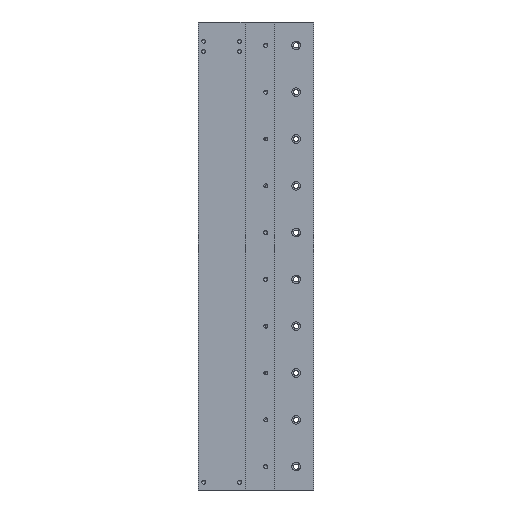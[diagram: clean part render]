
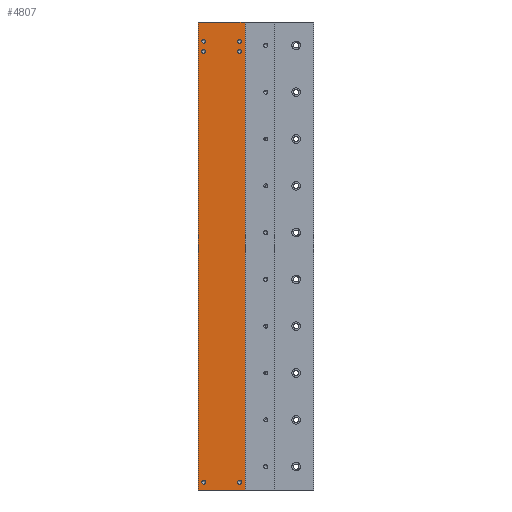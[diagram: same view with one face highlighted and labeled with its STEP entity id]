
A CAD part, left-side view. The second image highlights one B-rep face of the part: STEP entity #4807.
In plain terms, the highlighted planar face has unit normal (-1, 0, 0).
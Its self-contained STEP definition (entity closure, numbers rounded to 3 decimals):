
#13 = CARTESIAN_POINT ( 'NONE',  ( 9.5, 141., 10. ) ) ;
#66 = DIRECTION ( 'NONE',  ( -1., 0., 0. ) ) ;
#72 = VERTEX_POINT ( 'NONE', #3648 ) ;
#80 = DIRECTION ( 'NONE',  ( 0., 0., 1. ) ) ;
#115 = CIRCLE ( 'NONE', #1271, 2.5 ) ;
#143 = EDGE_CURVE ( 'NONE', #4715, #3780, #115, .T. ) ;
#290 = DIRECTION ( 'NONE',  ( 0., 0., 1. ) ) ;
#301 = AXIS2_PLACEMENT_3D ( 'NONE', #1803, #2534, #3327 ) ;
#342 = VERTEX_POINT ( 'NONE', #4205 ) ;
#372 = EDGE_CURVE ( 'NONE', #1276, #1263, #441, .T. ) ;
#383 = VERTEX_POINT ( 'NONE', #3096 ) ;
#385 = CARTESIAN_POINT ( 'NONE',  ( 9.5, 141., 564.8 ) ) ;
#393 = DIRECTION ( 'NONE',  ( -1., 0., 0. ) ) ;
#424 = CARTESIAN_POINT ( 'NONE',  ( 9.5, 95., 10. ) ) ;
#441 = CIRCLE ( 'NONE', #4936, 2.5 ) ;
#461 = AXIS2_PLACEMENT_3D ( 'NONE', #3302, #992, #3286 ) ;
#488 = ORIENTED_EDGE ( 'NONE', *, *, #4562, .F. ) ;
#518 = LINE ( 'NONE', #4298, #1519 ) ;
#523 = CIRCLE ( 'NONE', #461, 2.5 ) ;
#528 = AXIS2_PLACEMENT_3D ( 'NONE', #2368, #4305, #2007 ) ;
#606 = EDGE_LOOP ( 'NONE', ( #2063, #2773 ) ) ;
#607 = LINE ( 'NONE', #2138, #3226 ) ;
#621 = CARTESIAN_POINT ( 'NONE',  ( 9.5, 95., 562.3 ) ) ;
#623 = EDGE_CURVE ( 'NONE', #4763, #4364, #768, .T. ) ;
#649 = EDGE_LOOP ( 'NONE', ( #4609, #1215, #930, #2100 ) ) ;
#686 = CARTESIAN_POINT ( 'NONE',  ( 9.5, 95., 12.5 ) ) ;
#735 = EDGE_LOOP ( 'NONE', ( #4446, #4394 ) ) ;
#757 = DIRECTION ( 'NONE',  ( 0., 1., 0. ) ) ;
#768 = CIRCLE ( 'NONE', #4910, 2.5 ) ;
#773 = EDGE_LOOP ( 'NONE', ( #1893, #1425 ) ) ;
#835 = ORIENTED_EDGE ( 'NONE', *, *, #2545, .F. ) ;
#916 = EDGE_CURVE ( 'NONE', #383, #4086, #2107, .T. ) ;
#930 = ORIENTED_EDGE ( 'NONE', *, *, #916, .T. ) ;
#941 = CARTESIAN_POINT ( 'NONE',  ( 9.5, 95., 562.3 ) ) ;
#957 = CARTESIAN_POINT ( 'NONE',  ( 9.5, 141., 559.8 ) ) ;
#992 = DIRECTION ( 'NONE',  ( -1., 0., 0. ) ) ;
#1083 = CARTESIAN_POINT ( 'NONE',  ( 9.5, 141., 562.3 ) ) ;
#1115 = DIRECTION ( 'NONE',  ( 0., 0., 1. ) ) ;
#1148 = AXIS2_PLACEMENT_3D ( 'NONE', #2001, #3940, #4704 ) ;
#1156 = DIRECTION ( 'NONE',  ( 0., 1., 0. ) ) ;
#1215 = ORIENTED_EDGE ( 'NONE', *, *, #3727, .F. ) ;
#1256 = CARTESIAN_POINT ( 'NONE',  ( 9.5, 95., 564.8 ) ) ;
#1263 = VERTEX_POINT ( 'NONE', #686 ) ;
#1268 = DIRECTION ( 'NONE',  ( 0., 0., -1. ) ) ;
#1271 = AXIS2_PLACEMENT_3D ( 'NONE', #1083, #1880, #4927 ) ;
#1276 = VERTEX_POINT ( 'NONE', #2171 ) ;
#1359 = VERTEX_POINT ( 'NONE', #3755 ) ;
#1383 = FACE_BOUND ( 'NONE', #2739, .T. ) ;
#1396 = CARTESIAN_POINT ( 'NONE',  ( 9.5, 88., 0. ) ) ;
#1425 = ORIENTED_EDGE ( 'NONE', *, *, #372, .F. ) ;
#1452 = CARTESIAN_POINT ( 'NONE',  ( 9.5, 148., 600. ) ) ;
#1465 = AXIS2_PLACEMENT_3D ( 'NONE', #3603, #3230, #2090 ) ;
#1519 = VECTOR ( 'NONE', #1268, 1000. ) ;
#1537 = EDGE_CURVE ( 'NONE', #4290, #3934, #607, .T. ) ;
#1576 = CARTESIAN_POINT ( 'NONE',  ( 9.5, 95., 10. ) ) ;
#1595 = EDGE_CURVE ( 'NONE', #72, #342, #2633, .T. ) ;
#1686 = FACE_OUTER_BOUND ( 'NONE', #649, .T. ) ;
#1690 = LINE ( 'NONE', #1452, #3052 ) ;
#1782 = EDGE_CURVE ( 'NONE', #1359, #2858, #4358, .T. ) ;
#1803 = CARTESIAN_POINT ( 'NONE',  ( 9.5, 95., 575.3 ) ) ;
#1880 = DIRECTION ( 'NONE',  ( -1., 0., 0. ) ) ;
#1893 = ORIENTED_EDGE ( 'NONE', *, *, #3447, .F. ) ;
#1909 = EDGE_CURVE ( 'NONE', #4364, #4763, #3039, .T. ) ;
#1976 = DIRECTION ( 'NONE',  ( -1., 0., 0. ) ) ;
#2000 = CIRCLE ( 'NONE', #4899, 2.5 ) ;
#2001 = CARTESIAN_POINT ( 'NONE',  ( 9.5, 95., 575.3 ) ) ;
#2007 = DIRECTION ( 'NONE',  ( 0., -1., 0. ) ) ;
#2063 = ORIENTED_EDGE ( 'NONE', *, *, #143, .F. ) ;
#2090 = DIRECTION ( 'NONE',  ( 0., 0., 1. ) ) ;
#2100 = ORIENTED_EDGE ( 'NONE', *, *, #4672, .T. ) ;
#2107 = LINE ( 'NONE', #2740, #2765 ) ;
#2138 = CARTESIAN_POINT ( 'NONE',  ( 9.5, 0., 0. ) ) ;
#2168 = DIRECTION ( 'NONE',  ( 0., 0., 1. ) ) ;
#2171 = CARTESIAN_POINT ( 'NONE',  ( 9.5, 95., 7.5 ) ) ;
#2218 = CARTESIAN_POINT ( 'NONE',  ( 9.5, 141., 575.3 ) ) ;
#2238 = DIRECTION ( 'NONE',  ( 0., 0., 1. ) ) ;
#2325 = ORIENTED_EDGE ( 'NONE', *, *, #1595, .F. ) ;
#2345 = FACE_BOUND ( 'NONE', #735, .T. ) ;
#2368 = CARTESIAN_POINT ( 'NONE',  ( 9.5, 0., 600. ) ) ;
#2448 = DIRECTION ( 'NONE',  ( -1., 0., 0. ) ) ;
#2465 = AXIS2_PLACEMENT_3D ( 'NONE', #13, #393, #2238 ) ;
#2500 = ORIENTED_EDGE ( 'NONE', *, *, #3127, .F. ) ;
#2534 = DIRECTION ( 'NONE',  ( -1., 0., 0. ) ) ;
#2545 = EDGE_CURVE ( 'NONE', #4099, #2952, #2611, .T. ) ;
#2577 = FACE_BOUND ( 'NONE', #773, .T. ) ;
#2602 = DIRECTION ( 'NONE',  ( 0., 0., 1. ) ) ;
#2611 = CIRCLE ( 'NONE', #4363, 2.5 ) ;
#2633 = CIRCLE ( 'NONE', #1148, 2.5 ) ;
#2634 = CARTESIAN_POINT ( 'NONE',  ( 9.5, 141., 577.8 ) ) ;
#2704 = FACE_BOUND ( 'NONE', #2777, .T. ) ;
#2739 = EDGE_LOOP ( 'NONE', ( #2325, #488 ) ) ;
#2740 = CARTESIAN_POINT ( 'NONE',  ( 9.5, 0., 600. ) ) ;
#2742 = PLANE ( 'NONE',  #528 ) ;
#2765 = VECTOR ( 'NONE', #1156, 1000. ) ;
#2773 = ORIENTED_EDGE ( 'NONE', *, *, #3491, .F. ) ;
#2777 = EDGE_LOOP ( 'NONE', ( #4697, #2500 ) ) ;
#2826 = DIRECTION ( 'NONE',  ( 0., 0., 1. ) ) ;
#2858 = VERTEX_POINT ( 'NONE', #4444 ) ;
#2889 = CARTESIAN_POINT ( 'NONE',  ( 9.5, 148., 0. ) ) ;
#2923 = DIRECTION ( 'NONE',  ( -1., 0., 0. ) ) ;
#2952 = VERTEX_POINT ( 'NONE', #1256 ) ;
#3039 = CIRCLE ( 'NONE', #3231, 2.5 ) ;
#3052 = VECTOR ( 'NONE', #4920, 1000. ) ;
#3096 = CARTESIAN_POINT ( 'NONE',  ( 9.5, 88., 600. ) ) ;
#3127 = EDGE_CURVE ( 'NONE', #2858, #1359, #3855, .T. ) ;
#3226 = VECTOR ( 'NONE', #757, 1000. ) ;
#3230 = DIRECTION ( 'NONE',  ( -1., 0., 0. ) ) ;
#3231 = AXIS2_PLACEMENT_3D ( 'NONE', #2218, #4897, #2602 ) ;
#3286 = DIRECTION ( 'NONE',  ( 0., 0., 1. ) ) ;
#3302 = CARTESIAN_POINT ( 'NONE',  ( 9.5, 141., 562.3 ) ) ;
#3327 = DIRECTION ( 'NONE',  ( 0., 0., 1. ) ) ;
#3447 = EDGE_CURVE ( 'NONE', #1263, #1276, #2000, .T. ) ;
#3491 = EDGE_CURVE ( 'NONE', #3780, #4715, #523, .T. ) ;
#3597 = FACE_BOUND ( 'NONE', #606, .T. ) ;
#3603 = CARTESIAN_POINT ( 'NONE',  ( 9.5, 141., 10. ) ) ;
#3648 = CARTESIAN_POINT ( 'NONE',  ( 9.5, 95., 577.8 ) ) ;
#3727 = EDGE_CURVE ( 'NONE', #383, #4290, #518, .T. ) ;
#3755 = CARTESIAN_POINT ( 'NONE',  ( 9.5, 141., 12.5 ) ) ;
#3780 = VERTEX_POINT ( 'NONE', #957 ) ;
#3855 = CIRCLE ( 'NONE', #1465, 2.5 ) ;
#3868 = EDGE_CURVE ( 'NONE', #2952, #4099, #4554, .T. ) ;
#3934 = VERTEX_POINT ( 'NONE', #2889 ) ;
#3940 = DIRECTION ( 'NONE',  ( -1., 0., 0. ) ) ;
#3959 = ORIENTED_EDGE ( 'NONE', *, *, #3868, .F. ) ;
#4020 = FACE_BOUND ( 'NONE', #4390, .T. ) ;
#4086 = VERTEX_POINT ( 'NONE', #4585 ) ;
#4099 = VERTEX_POINT ( 'NONE', #4646 ) ;
#4135 = CIRCLE ( 'NONE', #301, 2.5 ) ;
#4162 = CARTESIAN_POINT ( 'NONE',  ( 9.5, 141., 572.8 ) ) ;
#4205 = CARTESIAN_POINT ( 'NONE',  ( 9.5, 95., 572.8 ) ) ;
#4290 = VERTEX_POINT ( 'NONE', #1396 ) ;
#4298 = CARTESIAN_POINT ( 'NONE',  ( 9.5, 88., 600. ) ) ;
#4305 = DIRECTION ( 'NONE',  ( -1., 0., 0. ) ) ;
#4358 = CIRCLE ( 'NONE', #2465, 2.5 ) ;
#4363 = AXIS2_PLACEMENT_3D ( 'NONE', #621, #2923, #290 ) ;
#4364 = VERTEX_POINT ( 'NONE', #2634 ) ;
#4390 = EDGE_LOOP ( 'NONE', ( #3959, #835 ) ) ;
#4394 = ORIENTED_EDGE ( 'NONE', *, *, #623, .F. ) ;
#4444 = CARTESIAN_POINT ( 'NONE',  ( 9.5, 141., 7.5 ) ) ;
#4446 = ORIENTED_EDGE ( 'NONE', *, *, #1909, .F. ) ;
#4472 = CARTESIAN_POINT ( 'NONE',  ( 9.5, 141., 575.3 ) ) ;
#4554 = CIRCLE ( 'NONE', #4699, 2.5 ) ;
#4562 = EDGE_CURVE ( 'NONE', #342, #72, #4135, .T. ) ;
#4585 = CARTESIAN_POINT ( 'NONE',  ( 9.5, 148., 600. ) ) ;
#4609 = ORIENTED_EDGE ( 'NONE', *, *, #1537, .F. ) ;
#4646 = CARTESIAN_POINT ( 'NONE',  ( 9.5, 95., 559.8 ) ) ;
#4672 = EDGE_CURVE ( 'NONE', #4086, #3934, #1690, .T. ) ;
#4697 = ORIENTED_EDGE ( 'NONE', *, *, #1782, .F. ) ;
#4699 = AXIS2_PLACEMENT_3D ( 'NONE', #941, #2448, #2826 ) ;
#4704 = DIRECTION ( 'NONE',  ( 0., 0., 1. ) ) ;
#4715 = VERTEX_POINT ( 'NONE', #385 ) ;
#4763 = VERTEX_POINT ( 'NONE', #4162 ) ;
#4807 = ADVANCED_FACE ( 'NONE', ( #2704, #2577, #3597, #2345, #4020, #1383, #1686 ), #2742, .T. ) ;
#4830 = DIRECTION ( 'NONE',  ( -1., 0., 0. ) ) ;
#4897 = DIRECTION ( 'NONE',  ( -1., 0., 0. ) ) ;
#4899 = AXIS2_PLACEMENT_3D ( 'NONE', #1576, #1976, #80 ) ;
#4910 = AXIS2_PLACEMENT_3D ( 'NONE', #4472, #4830, #2168 ) ;
#4920 = DIRECTION ( 'NONE',  ( 0., 0., -1. ) ) ;
#4927 = DIRECTION ( 'NONE',  ( 0., 0., 1. ) ) ;
#4936 = AXIS2_PLACEMENT_3D ( 'NONE', #424, #66, #1115 ) ;
